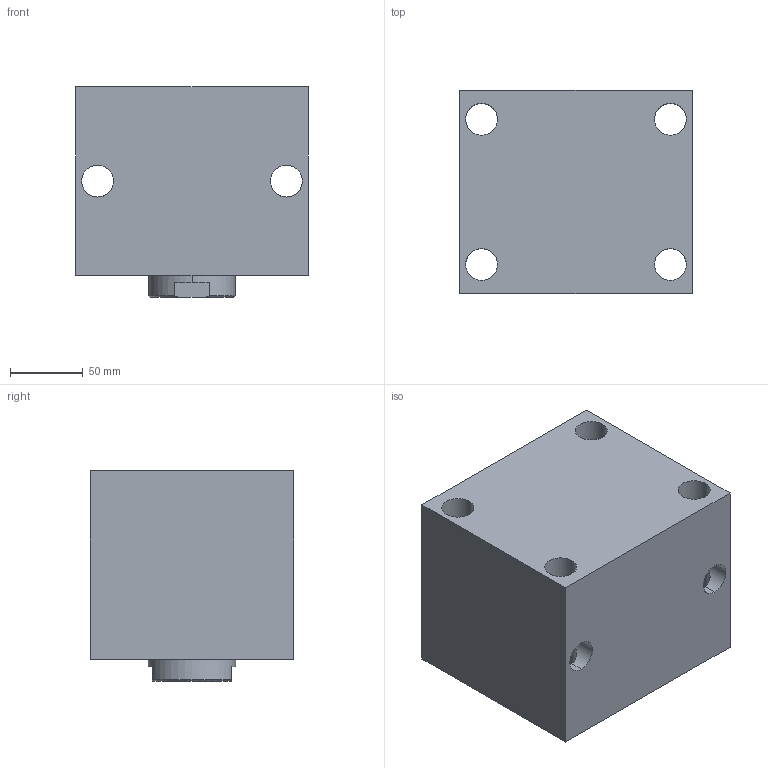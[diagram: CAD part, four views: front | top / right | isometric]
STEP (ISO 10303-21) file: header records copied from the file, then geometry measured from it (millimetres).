
FILE_DESCRIPTION (( 'STEP AP203' ), '1' );
FILE_NAME ('Block cylinder B01C-950F.STEP', '2022-07-09T18:41:41', ( '' ), ( '' ), 'SwSTEP 2.0', 'SolidWorks 2017', '' );
FILE_SCHEMA (( 'CONFIG_CONTROL_DESIGN' ));
Length unit declared in the file: millimetre
Products named in the file (3): Body_ 950F_50ST; Piston _950F; Block cylinder B01C-950F
Assembly tree (2 placements, depth 2):
  Block cylinder B01C-950F
    Body_ 950F_50ST
    Piston _950F
Bounding box: 160 x 140 x 145 mm (x, y, z)
Volume: 2801935.8 mm3; surface area: 217937.9 mm2
Topology: 2 solids, 2 shells, 349 faces, 954 edges, 623 vertices
Faces by surface type: bspline 161, plane 136, cylinder 44, cone 8
Entity records: 17819 total; most frequent: CARTESIAN_POINT 9842, ORIENTED_EDGE 1896, DIRECTION 1038, EDGE_CURVE 948, VERTEX_POINT 623, VECTOR 528, LINE 528, EDGE_LOOP 389
